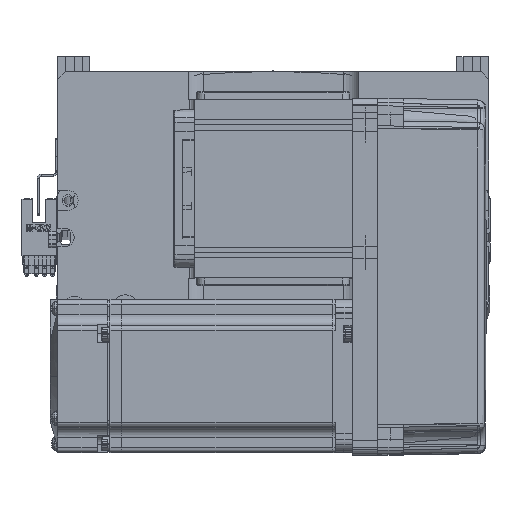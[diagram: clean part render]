
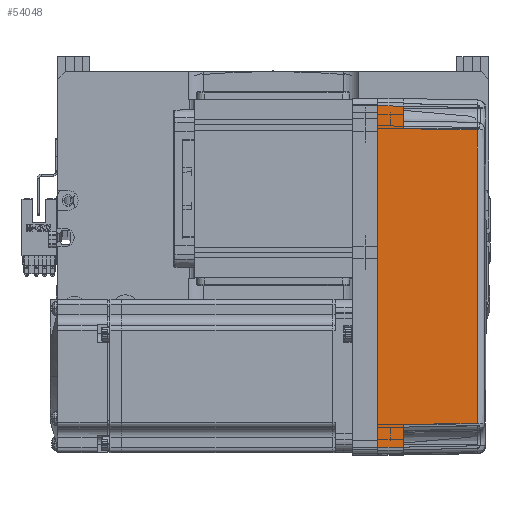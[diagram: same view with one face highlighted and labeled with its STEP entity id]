
A CAD part, top view. The second image highlights one B-rep face of the part: STEP entity #54048.
In plain terms, the highlighted planar face has unit normal (0.018, 0, 1) as drawn and (0, 1, 0.017) by its records, which use the part's own axes.
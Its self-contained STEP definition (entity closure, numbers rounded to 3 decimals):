
#720 = VECTOR ( 'NONE', #49238, 1000. ) ;
#2559 = EDGE_CURVE ( 'NONE', #65661, #25947, #49517, .T. ) ;
#4113 = LINE ( 'NONE', #23686, #56435 ) ;
#4744 = VERTEX_POINT ( 'NONE', #28558 ) ;
#5436 = CARTESIAN_POINT ( 'NONE',  ( 57.495, 35.32, 38.985 ) ) ;
#5553 = DIRECTION ( 'NONE',  ( 0., -0.017, 1. ) ) ;
#5809 = ORIENTED_EDGE ( 'NONE', *, *, #48831, .T. ) ;
#6442 = CARTESIAN_POINT ( 'NONE',  ( -57.495, 35.32, 38.985 ) ) ;
#7383 = DIRECTION ( 'NONE',  ( 1., 0., 0. ) ) ;
#9058 = VERTEX_POINT ( 'NONE', #23853 ) ;
#9931 = LINE ( 'NONE', #56278, #36122 ) ;
#10414 = CARTESIAN_POINT ( 'NONE',  ( 19.165, 35.316, 39.181 ) ) ;
#11300 = VECTOR ( 'NONE', #51320, 1000. ) ;
#11875 = VECTOR ( 'NONE', #59747, 1000. ) ;
#12258 = VERTEX_POINT ( 'NONE', #5436 ) ;
#13516 = EDGE_CURVE ( 'NONE', #44945, #12258, #66176, .T. ) ;
#15691 = CARTESIAN_POINT ( 'NONE',  ( -19.165, 35.316, 39.181 ) ) ;
#16341 = EDGE_CURVE ( 'NONE', #46794, #38598, #4113, .T. ) ;
#20328 = LINE ( 'NONE', #59789, #720 ) ;
#20462 = CARTESIAN_POINT ( 'NONE',  ( -67., 36., 0. ) ) ;
#21468 = FACE_OUTER_BOUND ( 'NONE', #49463, .T. ) ;
#22674 = VECTOR ( 'NONE', #25214, 1000. ) ;
#23007 = AXIS2_PLACEMENT_3D ( 'NONE', #41876, #36146, #5553 ) ;
#23214 = ORIENTED_EDGE ( 'NONE', *, *, #56817, .T. ) ;
#23686 = CARTESIAN_POINT ( 'NONE',  ( 0., 36., 0. ) ) ;
#23853 = CARTESIAN_POINT ( 'NONE',  ( 66.826, 35.825, 10. ) ) ;
#25214 = DIRECTION ( 'NONE',  ( -0.017, -0.017, 1. ) ) ;
#25403 = PLANE ( 'NONE',  #23007 ) ;
#25947 = VERTEX_POINT ( 'NONE', #57711 ) ;
#27063 = CARTESIAN_POINT ( 'NONE',  ( -67., 36., 0. ) ) ;
#27812 = ORIENTED_EDGE ( 'NONE', *, *, #2559, .T. ) ;
#28356 = LINE ( 'NONE', #66375, #22674 ) ;
#28558 = CARTESIAN_POINT ( 'NONE',  ( 58., 35.825, 10. ) ) ;
#30937 = EDGE_CURVE ( 'NONE', #38598, #9058, #28356, .T. ) ;
#31724 = LINE ( 'NONE', #20462, #11300 ) ;
#31888 = CARTESIAN_POINT ( 'NONE',  ( -57.495, 35.32, 38.985 ) ) ;
#31916 = ORIENTED_EDGE ( 'NONE', *, *, #45878, .T. ) ;
#35259 = VECTOR ( 'NONE', #7383, 1000. ) ;
#36122 = VECTOR ( 'NONE', #66768, 1000. ) ;
#36146 = DIRECTION ( 'NONE',  ( 0., 1., 0.017 ) ) ;
#38598 = VERTEX_POINT ( 'NONE', #42727 ) ;
#41876 = CARTESIAN_POINT ( 'NONE',  ( 70., 36., 0. ) ) ;
#42727 = CARTESIAN_POINT ( 'NONE',  ( 67., 36., 0. ) ) ;
#43063 = CARTESIAN_POINT ( 'NONE',  ( 70., 35.825, 10. ) ) ;
#43610 = CARTESIAN_POINT ( 'NONE',  ( -66.826, 35.825, 10. ) ) ;
#44945 = VERTEX_POINT ( 'NONE', #6442 ) ;
#45878 = EDGE_CURVE ( 'NONE', #46794, #65661, #31724, .T. ) ;
#46794 = VERTEX_POINT ( 'NONE', #27063 ) ;
#48831 = EDGE_CURVE ( 'NONE', #12258, #4744, #9931, .T. ) ;
#49238 = DIRECTION ( 'NONE',  ( 0.017, -0.017, 1. ) ) ;
#49463 = EDGE_LOOP ( 'NONE', ( #31916, #27812, #66721, #53478, #5809, #23214, #56593, #51912 ) ) ;
#49517 = LINE ( 'NONE', #49649, #11875 ) ;
#49649 = CARTESIAN_POINT ( 'NONE',  ( 70., 35.825, 10. ) ) ;
#50017 = EDGE_CURVE ( 'NONE', #25947, #44945, #20328, .T. ) ;
#51320 = DIRECTION ( 'NONE',  ( 0.017, -0.017, 1. ) ) ;
#51912 = ORIENTED_EDGE ( 'NONE', *, *, #16341, .F. ) ;
#53478 = ORIENTED_EDGE ( 'NONE', *, *, #13516, .T. ) ;
#54048 = ADVANCED_FACE ( 'NONE', ( #21468 ), #25403, .T. ) ;
#55255 = DIRECTION ( 'NONE',  ( 1., 0., 0. ) ) ;
#56278 = CARTESIAN_POINT ( 'NONE',  ( 57.495, 35.32, 38.985 ) ) ;
#56435 = VECTOR ( 'NONE', #55255, 1000. ) ;
#56593 = ORIENTED_EDGE ( 'NONE', *, *, #30937, .F. ) ;
#56817 = EDGE_CURVE ( 'NONE', #4744, #9058, #67124, .T. ) ;
#57711 = CARTESIAN_POINT ( 'NONE',  ( -58., 35.825, 10. ) ) ;
#59747 = DIRECTION ( 'NONE',  ( 1., 0., 0. ) ) ;
#59789 = CARTESIAN_POINT ( 'NONE',  ( -58., 35.825, 10. ) ) ;
#62327 = CARTESIAN_POINT ( 'NONE',  ( 57.495, 35.32, 38.985 ) ) ;
#65661 = VERTEX_POINT ( 'NONE', #43610 ) ;
#66176 = B_SPLINE_CURVE_WITH_KNOTS ( 'NONE', 3,
 ( #31888, #15691, #10414, #62327 ),
 .UNSPECIFIED., .F., .F.,
 ( 4, 4 ),
 ( 0., 1. ),
 .UNSPECIFIED. ) ;
#66375 = CARTESIAN_POINT ( 'NONE',  ( 67.001, 36.001, -0.052 ) ) ;
#66721 = ORIENTED_EDGE ( 'NONE', *, *, #50017, .T. ) ;
#66768 = DIRECTION ( 'NONE',  ( 0.017, 0.017, -1. ) ) ;
#67124 = LINE ( 'NONE', #43063, #35259 ) ;
